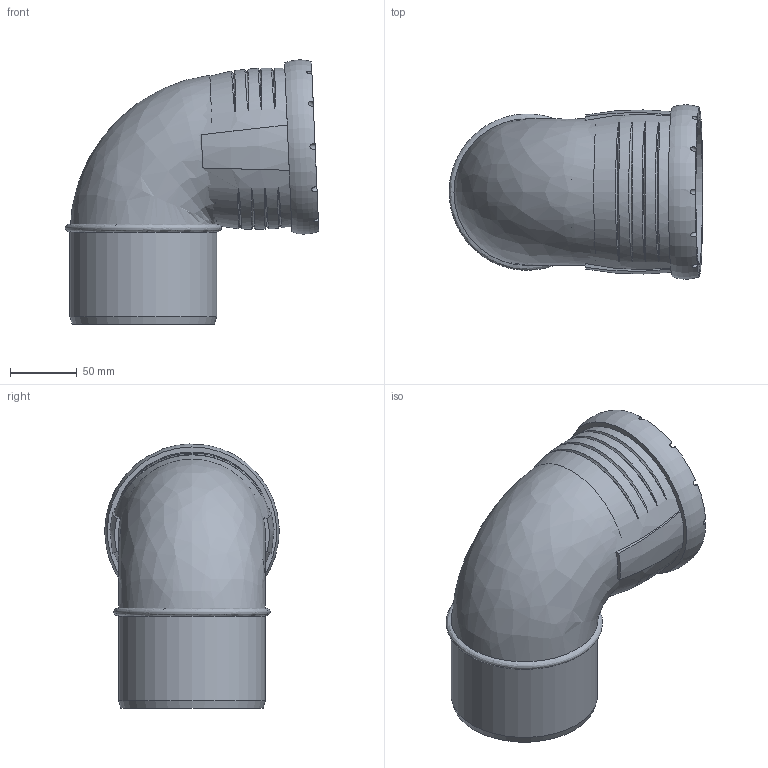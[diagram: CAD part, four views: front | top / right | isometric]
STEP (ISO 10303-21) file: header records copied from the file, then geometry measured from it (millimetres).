
FILE_DESCRIPTION(/* description */ (''),/* implementation_level */ '2;1');
FILE_NAME(/* name */ 'H:\Geberit-Teile\Export\Bogen_TEST\stp\393524.stp',/* time_stamp */ '2017-02-14T10:13:43+01:00',/* author */ ('seihe2'),/* organization */ (''),/* preprocessor_version */ 'ST-DEVELOPER v15.2',/* originating_system */ 'Autodesk Inventor 2014',/* authorisation */ '');
FILE_SCHEMA (('AUTOMOTIVE_DESIGN { 1 0 10303 214 3 1 1 }'));
Length unit declared in the file: millimetre
Products named in the file (1): 393524
Bounding box: 190.49 x 130.89 x 198.36 mm (x, y, z)
Volume: 1148417.2 mm3; surface area: 180928.7 mm2
Topology: 2 solids, 2 shells, 56 faces, 152 edges, 103 vertices
Faces by surface type: bspline 23, cylinder 20, plane 10, cone 2, torus 1
Full cylindrical faces by diameter (mm): 90 x1, 101.2 x1, 110.2 x1, 111 x1, 111.3 x1, 121.5 x1
Entity records: 4351 total; most frequent: CARTESIAN_POINT 3040, ORIENTED_EDGE 278, DIRECTION 206, EDGE_CURVE 137, VERTEX_POINT 101, AXIS2_PLACEMENT_3D 101, EDGE_LOOP 79, B_SPLINE_CURVE_WITH_KNOTS 65
